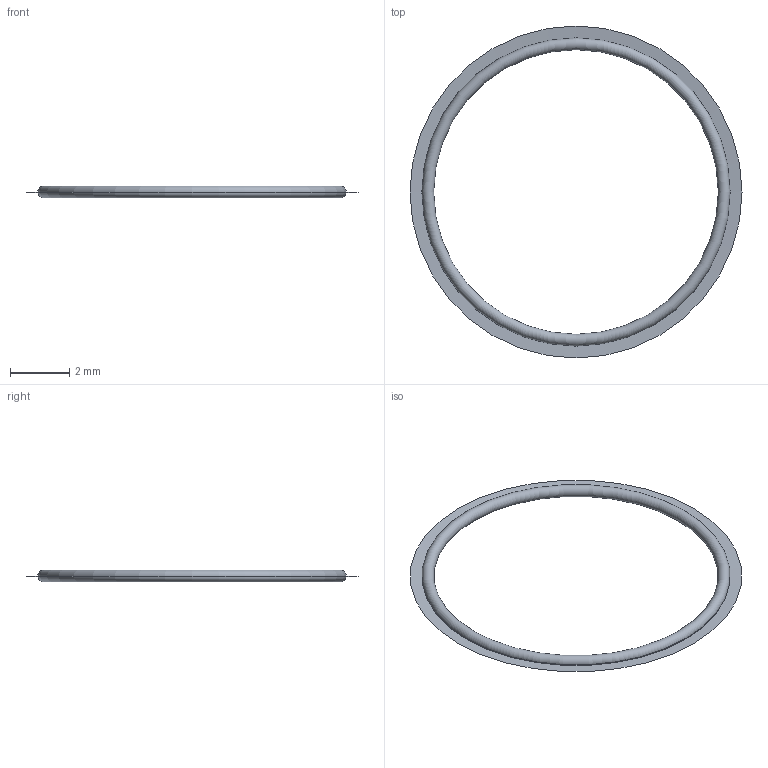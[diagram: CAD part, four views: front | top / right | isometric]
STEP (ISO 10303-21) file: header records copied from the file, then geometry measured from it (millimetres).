
FILE_DESCRIPTION(('BRL-CAD AP214 invalid FACE wr2 off-surface torus fixture'),'2;1');
FILE_NAME('ap214_face_wr2_off_surface_torus_invalid.stp','2026-07-25T00:00:00',('BRL-CAD'),('BRL-CAD'),'','','');
FILE_SCHEMA(('AUTOMOTIVE_DESIGN { 1 0 10303 214 3 1 1 1 }'));
Length unit declared in the file: millimetre
Products named in the file (1): face_wr2_off_surface_torus
Bounding box: 11.2 x 11.2 x 0.4 mm (x, y, z)
Surface area: 39.5 mm2 (no closed solid volume)
Topology: 0 solids, 1 shells, 1 faces, 3 edges, 2 vertices
Faces by surface type: torus 1
Entity records: 33 total; most frequent: CARTESIAN_POINT 3, VERTEX_POINT 2, DIRECTION 2, CIRCLE 2, EDGE_CURVE 2, ORIENTED_EDGE 2, EDGE_LOOP 2, FACE_OUTER_BOUND 2
